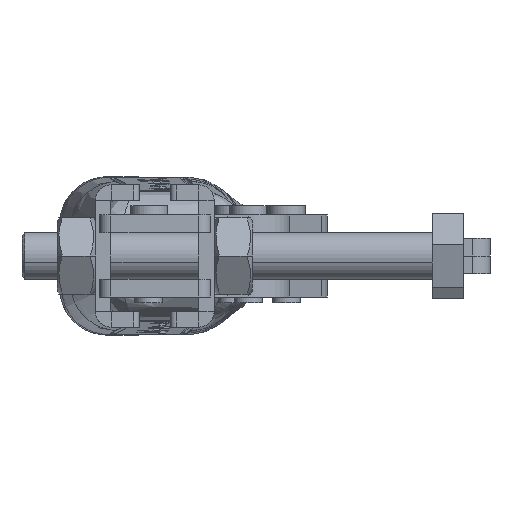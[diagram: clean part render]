
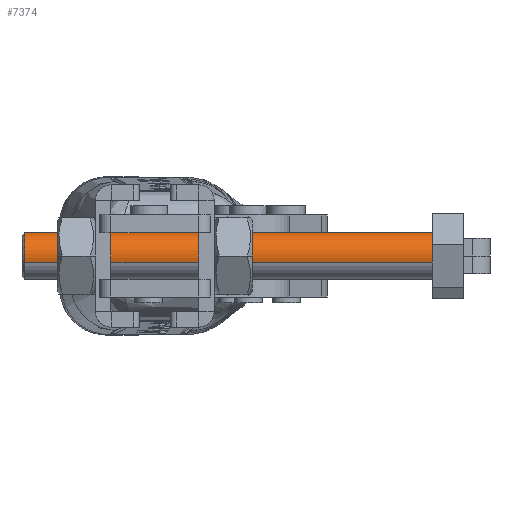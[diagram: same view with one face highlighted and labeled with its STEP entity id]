
A CAD part, left-side view. The second image highlights one B-rep face of the part: STEP entity #7374.
In plain terms, the highlighted cylindrical face has radius 4 mm (diameter 8 mm), a partial arc.
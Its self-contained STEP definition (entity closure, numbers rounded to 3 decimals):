
#1829 = ORIENTED_EDGE ( 'NONE', *, *, #13965, .T. ) ;
#1917 = EDGE_CURVE ( 'NONE', #19897, #16397, #16442, .T. ) ;
#2474 = CARTESIAN_POINT ( 'NONE',  ( 0., -70., 4. ) ) ;
#2521 = ORIENTED_EDGE ( 'NONE', *, *, #1917, .T. ) ;
#2958 = EDGE_CURVE ( 'NONE', #16397, #17872, #11083, .T. ) ;
#3617 = DIRECTION ( 'NONE',  ( 0., 1., 0. ) ) ;
#3634 = AXIS2_PLACEMENT_3D ( 'NONE', #5244, #16613, #6853 ) ;
#4831 = AXIS2_PLACEMENT_3D ( 'NONE', #12239, #8944, #17058 ) ;
#5057 = CIRCLE ( 'NONE', #3634, 4. ) ;
#5244 = CARTESIAN_POINT ( 'NONE',  ( 0., -69.5, 0. ) ) ;
#5422 = ORIENTED_EDGE ( 'NONE', *, *, #2958, .T. ) ;
#6765 = VECTOR ( 'NONE', #3617, 1000. ) ;
#6853 = DIRECTION ( 'NONE',  ( 0., 0., -1. ) ) ;
#7374 = ADVANCED_FACE ( 'NONE', ( #8982 ), #12805, .T. ) ;
#7782 = CARTESIAN_POINT ( 'NONE',  ( 0., -69.5, 4. ) ) ;
#7791 = VECTOR ( 'NONE', #10164, 1000. ) ;
#8944 = DIRECTION ( 'NONE',  ( 0., -1., 0. ) ) ;
#8982 = FACE_OUTER_BOUND ( 'NONE', #18761, .T. ) ;
#9931 = CARTESIAN_POINT ( 'NONE',  ( 0., -70., 0. ) ) ;
#10164 = DIRECTION ( 'NONE',  ( 0., 1., 0. ) ) ;
#11083 = CIRCLE ( 'NONE', #4831, 4. ) ;
#11106 = LINE ( 'NONE', #14818, #6765 ) ;
#11581 = DIRECTION ( 'NONE',  ( 0., 1., 0. ) ) ;
#12239 = CARTESIAN_POINT ( 'NONE',  ( 0., 0., 0. ) ) ;
#12805 = CYLINDRICAL_SURFACE ( 'NONE', #13573, 4. ) ;
#13573 = AXIS2_PLACEMENT_3D ( 'NONE', #9931, #11581, #19660 ) ;
#13965 = EDGE_CURVE ( 'NONE', #20279, #19897, #5057, .T. ) ;
#14818 = CARTESIAN_POINT ( 'NONE',  ( 0., -70., -4. ) ) ;
#15434 = ORIENTED_EDGE ( 'NONE', *, *, #15787, .F. ) ;
#15787 = EDGE_CURVE ( 'NONE', #20279, #17872, #11106, .T. ) ;
#16299 = CARTESIAN_POINT ( 'NONE',  ( 0., 0., -4. ) ) ;
#16397 = VERTEX_POINT ( 'NONE', #20763 ) ;
#16442 = LINE ( 'NONE', #2474, #7791 ) ;
#16613 = DIRECTION ( 'NONE',  ( 0., 1., 0. ) ) ;
#17058 = DIRECTION ( 'NONE',  ( 0., 0., 1. ) ) ;
#17146 = CARTESIAN_POINT ( 'NONE',  ( 0., -69.5, -4. ) ) ;
#17872 = VERTEX_POINT ( 'NONE', #16299 ) ;
#18761 = EDGE_LOOP ( 'NONE', ( #15434, #1829, #2521, #5422 ) ) ;
#19660 = DIRECTION ( 'NONE',  ( 0., 0., 1. ) ) ;
#19897 = VERTEX_POINT ( 'NONE', #7782 ) ;
#20279 = VERTEX_POINT ( 'NONE', #17146 ) ;
#20763 = CARTESIAN_POINT ( 'NONE',  ( 0., 0., 4. ) ) ;
